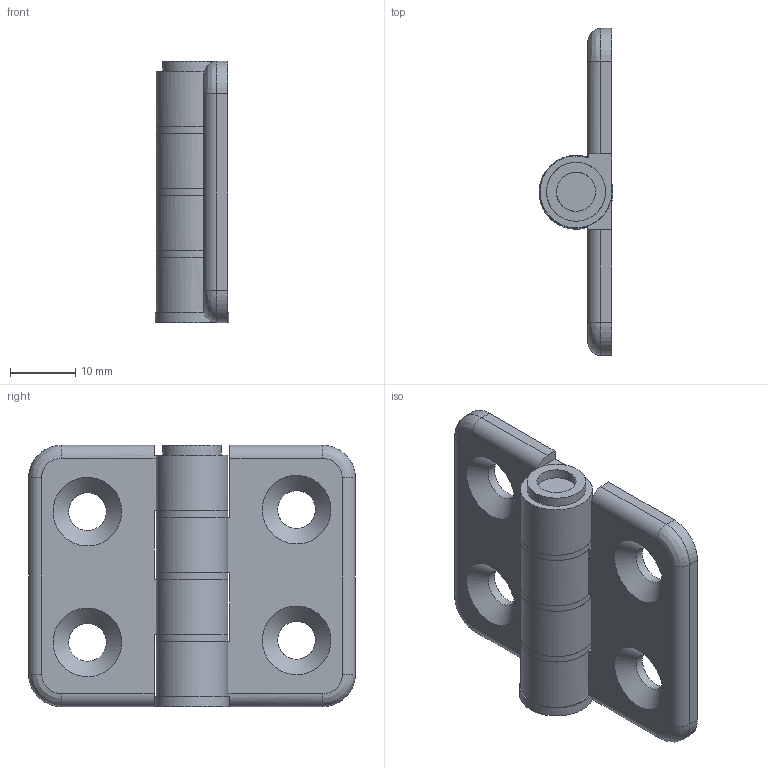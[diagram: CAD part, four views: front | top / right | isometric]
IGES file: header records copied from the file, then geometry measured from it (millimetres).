
Global section: file name: DR_HS4050-1; native system: Autodesk Inventor 2015; preprocessor: unknown; author: user; date: 20210222.120639; units: millimetre
Bounding box: 11.29 x 50 x 40 mm (x, y, z)
Volume: 8810.2 mm3; surface area: 7769 mm2
Topology: 6 solids, 6 shells, 75 faces, 176 edges, 116 vertices
Faces by surface type: bspline 75
